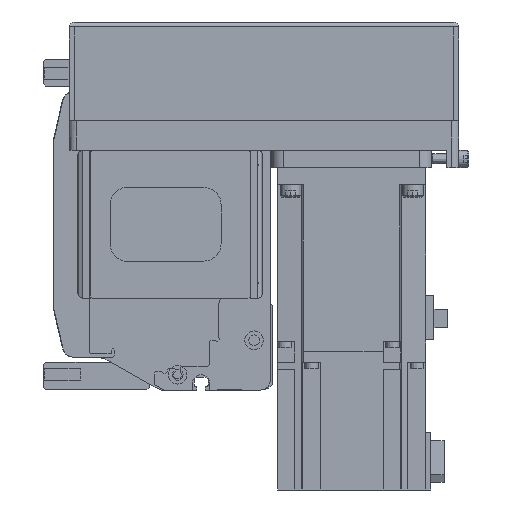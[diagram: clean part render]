
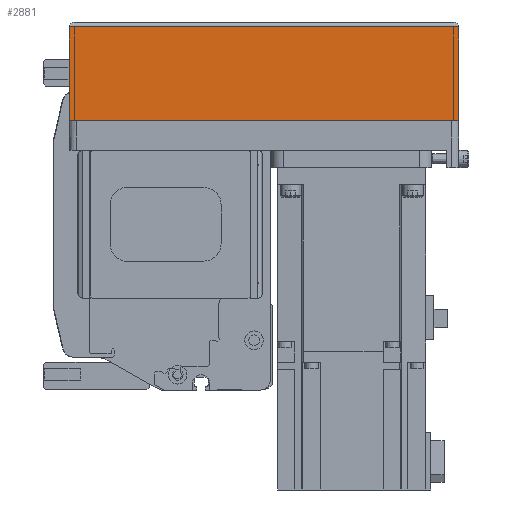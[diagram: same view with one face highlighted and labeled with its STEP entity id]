
A CAD part, left-side view. The second image highlights one B-rep face of the part: STEP entity #2881.
In plain terms, the highlighted planar face has unit normal (-1, 0, 0) as drawn and (0, -1, 0) by its records, which use the part's own axes.
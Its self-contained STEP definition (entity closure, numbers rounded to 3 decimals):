
#2881 = ADVANCED_FACE( '', ( #6304 ), #6305, .T. );
#6304 = FACE_OUTER_BOUND( '', #10118, .T. );
#6305 = PLANE( '', #10119 );
#10118 = EDGE_LOOP( '', ( #18262, #18263, #18264, #18265 ) );
#10119 = AXIS2_PLACEMENT_3D( '', #18266, #18267, #18268 );
#18262 = ORIENTED_EDGE( '', *, *, #23299, .F. );
#18263 = ORIENTED_EDGE( '', *, *, #24356, .F. );
#18264 = ORIENTED_EDGE( '', *, *, #22039, .T. );
#18265 = ORIENTED_EDGE( '', *, *, #24482, .T. );
#18266 = CARTESIAN_POINT( '', ( -158., -39., -12.1 ) );
#18267 = DIRECTION( '', ( 0., -1., 0. ) );
#18268 = DIRECTION( '', ( 0., 0., -1. ) );
#22039 = EDGE_CURVE( '', #26522, #26526, #26528, .T. );
#23299 = EDGE_CURVE( '', #28563, #28565, #28566, .T. );
#24356 = EDGE_CURVE( '', #26522, #28563, #30011, .T. );
#24482 = EDGE_CURVE( '', #26526, #28565, #30163, .T. );
#26522 = VERTEX_POINT( '', #33067 );
#26526 = VERTEX_POINT( '', #33073 );
#26528 = LINE( '', #33076, #33077 );
#28563 = VERTEX_POINT( '', #36230 );
#28565 = VERTEX_POINT( '', #36233 );
#28566 = LINE( '', #36234, #36235 );
#30011 = LINE( '', #38741, #38742 );
#30163 = LINE( '', #38968, #38969 );
#33067 = CARTESIAN_POINT( '', ( -158., -39., -12.1 ) );
#33073 = CARTESIAN_POINT( '', ( -158., -39., -50. ) );
#33076 = CARTESIAN_POINT( '', ( -158., -39., -12.1 ) );
#33077 = VECTOR( '', #40996, 1000. );
#36230 = CARTESIAN_POINT( '', ( 0., -39., -12.1 ) );
#36233 = CARTESIAN_POINT( '', ( 0., -39., -50. ) );
#36234 = CARTESIAN_POINT( '', ( 0., -39., -12.1 ) );
#36235 = VECTOR( '', #42611, 1000. );
#38741 = CARTESIAN_POINT( '', ( -158., -39., -12.1 ) );
#38742 = VECTOR( '', #43766, 1000. );
#38968 = CARTESIAN_POINT( '', ( -158., -39., -50. ) );
#38969 = VECTOR( '', #43872, 1000. );
#40996 = DIRECTION( '', ( 0., 0., -1. ) );
#42611 = DIRECTION( '', ( 0., 0., -1. ) );
#43766 = DIRECTION( '', ( 1., 0., 0. ) );
#43872 = DIRECTION( '', ( 1., 0., 0. ) );
